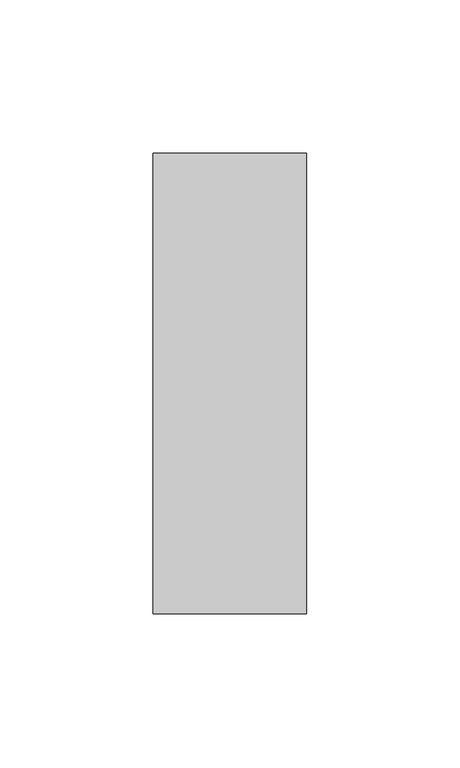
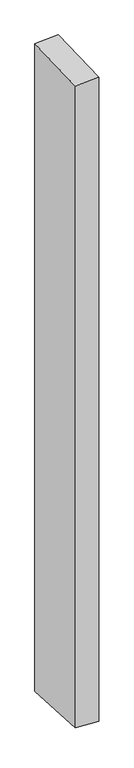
"""IFC4 building model written with IfcOpenShell, lengths in millimetres: member geometry, Прямоугольный импост : 50 x 150 мм."""

from ifc_helpers import new_model, si_unit, origin, place, context, project, spatial, faceted_brep, source, transform, mapped, element, save


def member_adcade24(model_context):
    return source(origin(), model_context, "Body", "Brep", [
        faceted_brep([(-25.0, 75.0, 1.2780567), (25.0, 75.0, 3.5265883), (25.0, 75.0, -1465.5922742), (-25.0, 75.0, -1462.8560833), (-25.0, -75.0, -3.5265883), (-25.0, -75.0, -1454.901365), (25.0, -75.0, -1.2780567), (25.0, -75.0, -1457.637556)], [[[0, 1, 2, 3]], [[4, 0, 3, 5]], [[6, 4, 5, 7]], [[1, 6, 7, 2]], [[1, 0, 4, 6]], [[2, 7, 5, 3]]]),
    ])


if __name__ == "__main__":
    model = new_model("IFC4")
    model_context = context("Model", 3, world=origin())
    ifc_project = project(units=[si_unit("LENGTHUNIT", "METRE", prefix="MILLI")], contexts=[model_context])
    site = spatial("IfcSite", under=ifc_project)
    building = spatial("IfcBuilding", under=site)
    placement = place(None, origin())
    member_shape = member_adcade24(model_context)
    element("IfcMember", 1, ObjectType="Прямоугольный импост : 50 x 150 мм", at=placement, inside=building, context=model_context, shape_type="MappedRepresentation", body=[
        mapped(member_shape, transform((0.0, 0.0, 0.0), x_axis=(1.0, 0.0, 0.0), y_axis=(0.0, 1.0, 0.0), z_axis=(0.0, 0.0, 1.0))),
    ])
    save(model, "model.ifc")
